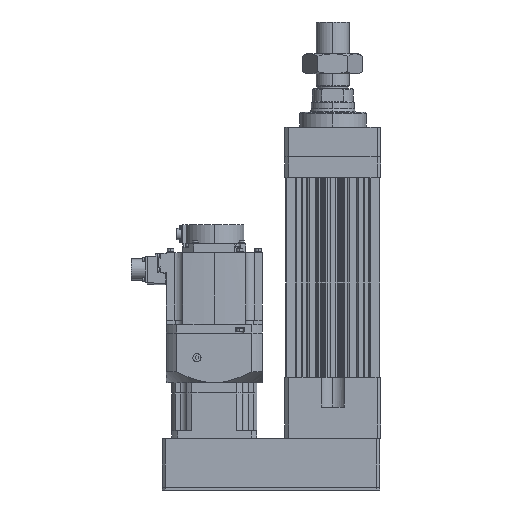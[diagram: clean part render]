
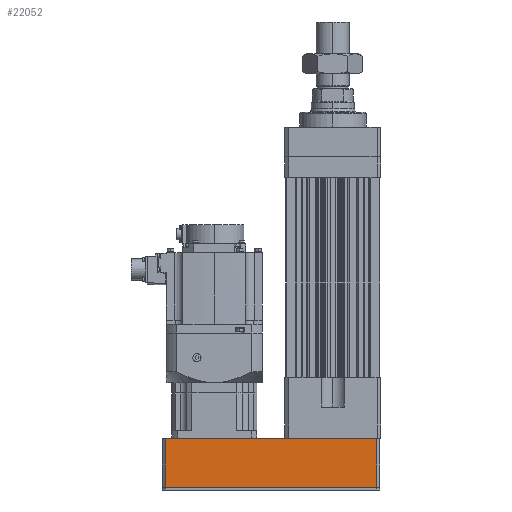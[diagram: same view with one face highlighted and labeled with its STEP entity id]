
A CAD part, left-side view. The second image highlights one B-rep face of the part: STEP entity #22052.
In plain terms, the highlighted planar face has unit normal (-1, 0, 0).
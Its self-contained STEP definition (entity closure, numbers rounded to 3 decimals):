
#2867 = DIRECTION ( 'NONE',  ( 0., 0., -1. ) ) ;
#4279 = DIRECTION ( 'NONE',  ( 0., 0., 1. ) ) ;
#4517 = CARTESIAN_POINT ( 'NONE',  ( -63.5, -59., -149. ) ) ;
#4984 = VERTEX_POINT ( 'NONE', #16056 ) ;
#5864 = LINE ( 'NONE', #19112, #33452 ) ;
#7442 = ORIENTED_EDGE ( 'NONE', *, *, #33959, .T. ) ;
#7978 = PLANE ( 'NONE',  #32511 ) ;
#8778 = CARTESIAN_POINT ( 'NONE',  ( -63.5, -59., -82.5 ) ) ;
#9087 = ORIENTED_EDGE ( 'NONE', *, *, #13482, .T. ) ;
#10061 = VECTOR ( 'NONE', #4279, 1000. ) ;
#11010 = CARTESIAN_POINT ( 'NONE',  ( -63.5, 226., -82.5 ) ) ;
#12112 = DIRECTION ( 'NONE',  ( 0., -1., 0. ) ) ;
#12972 = VECTOR ( 'NONE', #13704, 1000. ) ;
#13482 = EDGE_CURVE ( 'NONE', #18626, #19001, #21764, .T. ) ;
#13704 = DIRECTION ( 'NONE',  ( 0., 1., 0. ) ) ;
#14744 = ORIENTED_EDGE ( 'NONE', *, *, #18893, .T. ) ;
#16024 = LINE ( 'NONE', #33361, #24360 ) ;
#16056 = CARTESIAN_POINT ( 'NONE',  ( -63.5, 226., -148.5 ) ) ;
#16270 = DIRECTION ( 'NONE',  ( 1., 0., 0. ) ) ;
#17455 = VERTEX_POINT ( 'NONE', #22880 ) ;
#18626 = VERTEX_POINT ( 'NONE', #25727 ) ;
#18893 = EDGE_CURVE ( 'NONE', #19001, #17455, #20067, .T. ) ;
#19001 = VERTEX_POINT ( 'NONE', #8778 ) ;
#19112 = CARTESIAN_POINT ( 'NONE',  ( -63.5, 226., -149. ) ) ;
#20067 = LINE ( 'NONE', #11010, #12972 ) ;
#21764 = LINE ( 'NONE', #4517, #10061 ) ;
#22052 = ADVANCED_FACE ( 'NONE', ( #26233 ), #7978, .F. ) ;
#22275 = EDGE_LOOP ( 'NONE', ( #32160, #7442, #9087, #14744 ) ) ;
#22461 = DIRECTION ( 'NONE',  ( 0., 0., 1. ) ) ;
#22880 = CARTESIAN_POINT ( 'NONE',  ( -63.5, 226., -82.5 ) ) ;
#24360 = VECTOR ( 'NONE', #12112, 1000. ) ;
#25727 = CARTESIAN_POINT ( 'NONE',  ( -63.5, -59., -148.5 ) ) ;
#26233 = FACE_OUTER_BOUND ( 'NONE', #22275, .T. ) ;
#27686 = EDGE_CURVE ( 'NONE', #4984, #17455, #5864, .T. ) ;
#32160 = ORIENTED_EDGE ( 'NONE', *, *, #27686, .F. ) ;
#32267 = CARTESIAN_POINT ( 'NONE',  ( -63.5, -59., -149. ) ) ;
#32511 = AXIS2_PLACEMENT_3D ( 'NONE', #32267, #16270, #2867 ) ;
#33361 = CARTESIAN_POINT ( 'NONE',  ( -63.5, -59., -148.5 ) ) ;
#33452 = VECTOR ( 'NONE', #22461, 1000. ) ;
#33959 = EDGE_CURVE ( 'NONE', #4984, #18626, #16024, .T. ) ;
